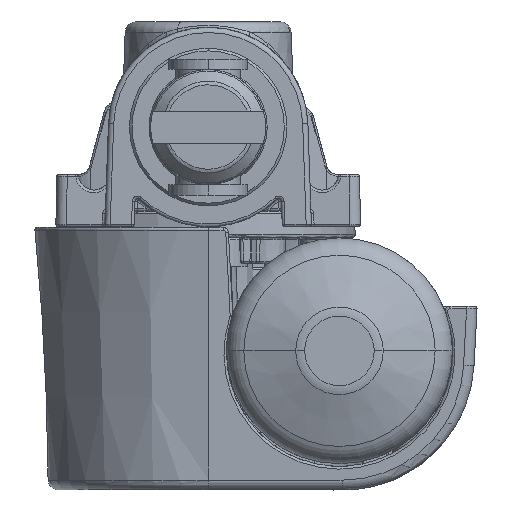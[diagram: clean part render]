
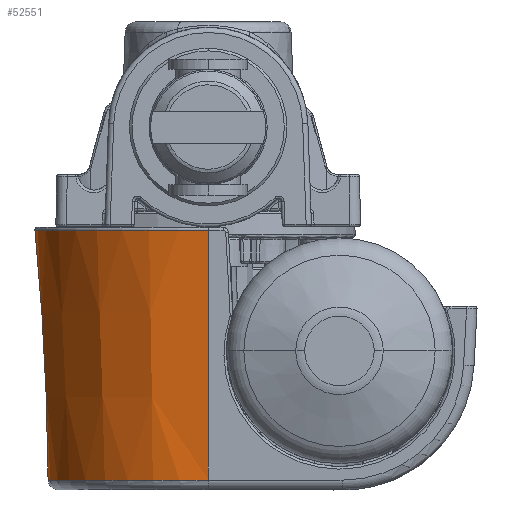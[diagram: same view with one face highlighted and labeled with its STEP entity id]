
A CAD part, left-side view. The second image highlights one B-rep face of the part: STEP entity #52551.
In plain terms, the highlighted conical face has half-angle 3 degrees and reference radius 31.726 mm.
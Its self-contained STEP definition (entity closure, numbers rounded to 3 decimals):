
#15631=CARTESIAN_POINT('',(141.1,0.,-19.626));
#15632=DIRECTION('',(0.,0.,-1.));
#15633=DIRECTION('',(-1.,0.,0.));
#15634=AXIS2_PLACEMENT_3D('',#15631,#15632,#15633);
#15636=CARTESIAN_POINT('',(141.1,0.,-19.626));
#15637=DIRECTION('',(0.,0.,-1.));
#15638=DIRECTION('',(1.,0.006,0.));
#15639=AXIS2_PLACEMENT_3D('',#15636,#15637,#15638);
#15666=DIRECTION('',(0.052,0.,-0.999));
#15667=VECTOR('',#15666,47.644);
#15668=CARTESIAN_POINT('',(108.128,0.,
-19.626));
#15669=LINE('',#15668,#15667);
#15670=DIRECTION('',(0.052,0.,0.999));
#15671=VECTOR('',#15670,47.644);
#15672=CARTESIAN_POINT('',(171.579,0.,
-67.205));
#15673=LINE('',#15672,#15671);
#16227=CARTESIAN_POINT('',(141.1,0.,-67.205));
#16228=DIRECTION('',(0.,0.,1.));
#16229=DIRECTION('',(1.,0.,0.));
#16230=AXIS2_PLACEMENT_3D('',#16227,#16228,#16229);
#16232=CARTESIAN_POINT('',(141.1,0.,-67.205));
#16233=DIRECTION('',(0.,0.,1.));
#16234=DIRECTION('',(-1.,0.006,0.));
#16235=AXIS2_PLACEMENT_3D('',#16232,#16233,#16234);
#23255=CARTESIAN_POINT('',(174.072,0.,
-19.626));
#23256=VERTEX_POINT('',#23255);
#23257=CARTESIAN_POINT('',(171.579,0.,
-67.205));
#23258=VERTEX_POINT('',#23257);
#23268=CARTESIAN_POINT('',(108.128,0.,-19.626));
#23269=CARTESIAN_POINT('',(174.072,0.199,
-19.626));
#23270=VERTEX_POINT('',#23268);
#23271=VERTEX_POINT('',#23269);
#23274=CARTESIAN_POINT('',(110.621,0.,
-67.205));
#23275=VERTEX_POINT('',#23274);
#23276=CARTESIAN_POINT('',(110.622,0.169,
-67.205));
#23277=VERTEX_POINT('',#23276);
#52535=CARTESIAN_POINT('',(141.1,0.,-43.415));
#52536=DIRECTION('',(0.,0.,1.));
#52537=DIRECTION('',(-1.,0.,0.));
#52538=AXIS2_PLACEMENT_3D('',#52535,#52536,#52537);
#52539=CONICAL_SURFACE('',#52538,31.726,3.);
#52540=ORIENTED_EDGE('',*,*,#52522,.F.);
#52541=ORIENTED_EDGE('',*,*,#52520,.F.);
#52543=ORIENTED_EDGE('',*,*,#52542,.T.);
#52545=ORIENTED_EDGE('',*,*,#52544,.F.);
#52547=ORIENTED_EDGE('',*,*,#52546,.F.);
#52548=ORIENTED_EDGE('',*,*,#52484,.T.);
#52549=EDGE_LOOP('',(#52540,#52541,#52543,#52545,#52547,#52548));
#52550=FACE_OUTER_BOUND('',#52549,.F.);
#52551=ADVANCED_FACE('',(#52550),#52539,.T.);
#15635=CIRCLE('',#15634,32.972);
#15640=CIRCLE('',#15639,32.972);
#16231=CIRCLE('',#16230,30.479);
#16236=CIRCLE('',#16235,30.479);
#52484=EDGE_CURVE('',#23258,#23256,#15673,.T.);
#52520=EDGE_CURVE('',#23270,#23271,#15635,.T.);
#52522=EDGE_CURVE('',#23271,#23256,#15640,.T.);
#52542=EDGE_CURVE('',#23270,#23275,#15669,.T.);
#52544=EDGE_CURVE('',#23277,#23275,#16236,.T.);
#52546=EDGE_CURVE('',#23258,#23277,#16231,.T.);
